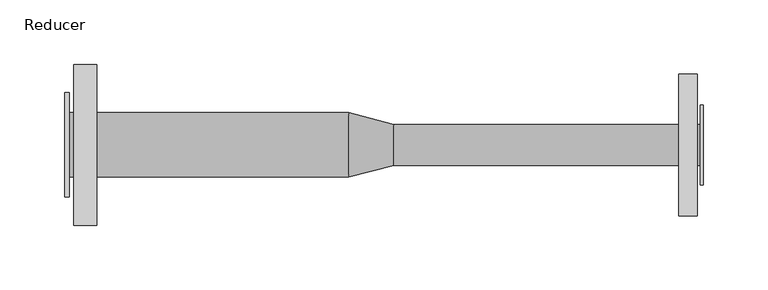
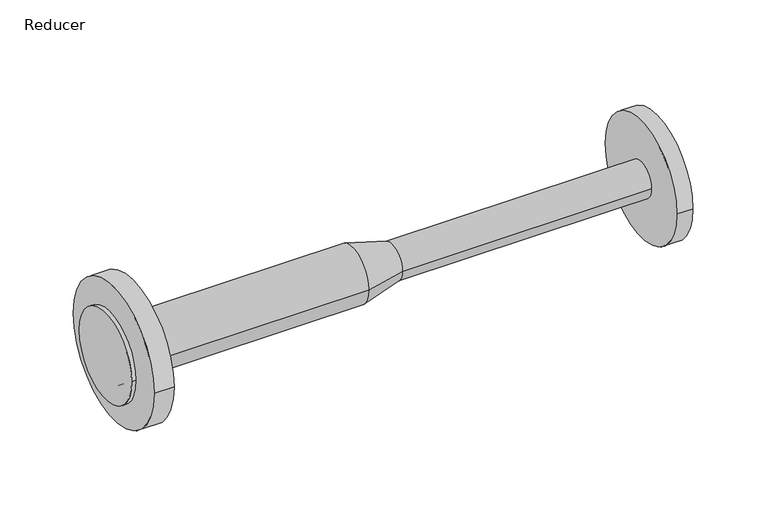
"""IFC4 building model written with IfcOpenShell, lengths in millimetres: pipe fitting geometry, Plumbing-Pipe-Fittings_Pexgol_Reducer : Reducer."""

import ifcopenshell
import ifcopenshell.guid

model = None  # the IFC model being written
_history = None  # IfcOwnerHistory: only IFC2X3 demands one
_inside = {}  # id of a spatial element -> (the spatial element, [elements in it])
_under = {}  # id of a project, library or spatial element -> (it, [spatial elements below it])
_declared = {}  # id of a project -> (the project, [libraries it declares])
_typed = {}  # id of a type object -> (the type object, [elements of that type])
_made_of = {}  # id of a material, layer set ... -> (it, [elements and type objects made of it])


def new_model(schema):
    """Start an empty IFC model of exactly this schema.

    Asked for "IFC4X3", IfcOpenShell would pick the latest addendum, in which some entities
    have other attributes; the version numbers below select the first issue.
    IFC2X3 requires an IfcOwnerHistory on every rooted entity: one is made here for all.
    """
    global model, _history
    if schema == "IFC4X3":
        model = ifcopenshell.file(schema_version=(4, 3, 0, 0))
    else:
        model = ifcopenshell.file(schema=schema)
    _inside.clear()
    _under.clear()
    _declared.clear()
    _typed.clear()
    _made_of.clear()
    _history = None
    if model.schema == "IFC2X3":
        org = make("IfcOrganization", Name="unknown")
        user = make(
            "IfcPersonAndOrganization",
            ThePerson=make("IfcPerson", FamilyName="unknown"),
            TheOrganization=org,
        )
        app = make(
            "IfcApplication",
            ApplicationDeveloper=org,
            Version="unknown",
            ApplicationFullName="unknown",
            ApplicationIdentifier="unknown",
        )
        _history = make(
            "IfcOwnerHistory",
            OwningUser=user,
            OwningApplication=app,
            ChangeAction="ADDED",
            CreationDate=0,
        )
    return model


def make(cls, **values):
    """One entity of the class cls with the attributes given. An attribute that is None is left unset."""
    return model.create_entity(
        cls, **{name: value for name, value in values.items() if value is not None}
    )


def rooted(cls, **values):
    """An entity with a GlobalId (a new one), such as an element, a storey or a relation."""
    return make(cls, GlobalId=ifcopenshell.guid.new(), OwnerHistory=_history, **values)


def si_unit(unit_type, name, prefix=None):
    """IfcSIUnit, for example si_unit("LENGTHUNIT", "METRE", prefix="MILLI")."""
    return make("IfcSIUnit", UnitType=unit_type, Prefix=prefix, Name=name)


def assignment(units):
    """IfcUnitAssignment: the units of a project."""
    return None if units is None else make("IfcUnitAssignment", Units=units)


def point(xyz):
    """IfcCartesianPoint."""
    return None if xyz is None else make("IfcCartesianPoint", Coordinates=xyz)


def direction(xyz):
    """IfcDirection."""
    return None if xyz is None else make("IfcDirection", DirectionRatios=xyz)


def frame(location, z_axis=None, x_axis=None):
    """IfcAxis2Placement3D, a coordinate frame: its origin and axes. An axis left out is left unset."""
    return make(
        "IfcAxis2Placement3D",
        Location=point(location),
        Axis=direction(z_axis),
        RefDirection=direction(x_axis),
    )


def frame_2d(location, x_axis=None):
    """IfcAxis2Placement2D, a coordinate frame in the plane: its origin and x axis."""
    return make(
        "IfcAxis2Placement2D", Location=point(location), RefDirection=direction(x_axis)
    )


def origin():
    """The frame at (0, 0, 0) with its axes left unset."""
    return frame((0.0, 0.0, 0.0))


def origin_2d():
    """The frame at (0, 0) in the plane with its x axis left unset."""
    return frame_2d((0.0, 0.0))


def place(relative_to, where):
    """IfcLocalPlacement: puts the frame where relative to a parent placement (None: the world)."""
    return make(
        "IfcLocalPlacement", PlacementRelTo=relative_to, RelativePlacement=where
    )


def context(
    kind, dimensions, precision=None, world=None, true_north=None, identifier=None
):
    """IfcGeometricRepresentationContext, for example the 3D "Model" context."""
    return make(
        "IfcGeometricRepresentationContext",
        ContextIdentifier=identifier,
        ContextType=kind,
        CoordinateSpaceDimension=dimensions,
        Precision=precision,
        WorldCoordinateSystem=world,
        TrueNorth=true_north,
    )


def project(units=None, contexts=None):
    """IfcProject with its units and contexts."""
    return rooted(
        "IfcProject",
        Name="project",
        RepresentationContexts=contexts,
        UnitsInContext=assignment(units),
    )


def spatial(cls, under=None, at=None, **own):
    """A site, building, storey or space (cls), placed at a placement, below another one or the project."""
    s = rooted(cls, ObjectPlacement=at, **own)
    if under is not None:
        _under.setdefault(under.id(), (under, []))[1].append(s)
    return s


def polyline(points):
    """IfcPolyline through the points."""
    return make("IfcPolyline", Points=[point(p) for p in points])


def circle_curve(where, radius):
    """IfcCircle in the frame where."""
    return make("IfcCircle", Position=where, Radius=radius)


def trimmed(basis, trim1, trim2, sense, master):
    """IfcTrimmedCurve: the piece of a basis curve between two trims."""
    return make(
        "IfcTrimmedCurve",
        BasisCurve=basis,
        Trim1=trim1,
        Trim2=trim2,
        SenseAgreement=sense,
        MasterRepresentation=master,
    )


def segment(curve, same_sense, transition):
    """IfcCompositeCurveSegment."""
    return make(
        "IfcCompositeCurveSegment",
        Transition=transition,
        SameSense=same_sense,
        ParentCurve=curve,
    )


def composite_curve(segments, self_intersect=None):
    """IfcCompositeCurve: segments joined end to end."""
    return make("IfcCompositeCurve", Segments=segments, SelfIntersect=self_intersect)


def outline(outer, holes=None, kind="AREA"):
    """IfcArbitraryClosedProfileDef: a profile drawn as a closed curve; with holes, ...WithVoids."""
    if holes is None:
        return make("IfcArbitraryClosedProfileDef", ProfileType=kind, OuterCurve=outer)
    return make(
        "IfcArbitraryProfileDefWithVoids",
        ProfileType=kind,
        OuterCurve=outer,
        InnerCurves=holes,
    )


def extrude(swept, where, along, depth):
    """IfcExtrudedAreaSolid: the profile swept, set in the frame where, extruded along a direction by depth."""
    return make(
        "IfcExtrudedAreaSolid",
        SweptArea=swept,
        Position=where,
        ExtrudedDirection=direction(along),
        Depth=depth,
    )


def shape(context_of_items, identifier, shape_type, items):
    """IfcShapeRepresentation: the items that make up one representation, for example the "Body"."""
    return make(
        "IfcShapeRepresentation",
        ContextOfItems=context_of_items,
        RepresentationIdentifier=identifier,
        RepresentationType=shape_type,
        Items=items,
    )


def source(mapping_origin, context_of_items, identifier, shape_type, items):
    """IfcRepresentationMap: a shape defined once, which mapped items show again and again."""
    return make(
        "IfcRepresentationMap",
        MappingOrigin=mapping_origin,
        MappedRepresentation=shape(context_of_items, identifier, shape_type, items),
    )


def transform(
    local_origin,
    x_axis=None,
    y_axis=None,
    z_axis=None,
    scale=None,
    scale2=None,
    scale3=None,
    uniform=True,
):
    """IfcCartesianTransformationOperator3D, or its non-uniform kind. x_axis, y_axis, z_axis: its Axis1, 2, 3."""
    if uniform:
        return make(
            "IfcCartesianTransformationOperator3D",
            Axis1=direction(x_axis),
            Axis2=direction(y_axis),
            LocalOrigin=point(local_origin),
            Scale=scale,
            Axis3=direction(z_axis),
        )
    return make(
        "IfcCartesianTransformationOperator3DnonUniform",
        Axis1=direction(x_axis),
        Axis2=direction(y_axis),
        LocalOrigin=point(local_origin),
        Scale=scale,
        Axis3=direction(z_axis),
        Scale2=scale2,
        Scale3=scale3,
    )


def mapped(mapping_source, mapping_target):
    """IfcMappedItem: shows the shape of a source again, moved by a transform."""
    return make(
        "IfcMappedItem", MappingSource=mapping_source, MappingTarget=mapping_target
    )


def made_of(thing, what):
    """Note that an element or type object is made of a material, layer set ...; save() writes the relation."""
    if what is not None:
        _made_of.setdefault(what.id(), (what, []))[1].append(thing)
    return thing


def element(
    cls,
    number,
    at=None,
    inside=None,
    cuts=None,
    type_object=None,
    material=None,
    context=None,
    identifier="Body",
    shape_type=None,
    held_by="IfcProductDefinitionShape",
    body=None,
    shapes=None,
    **own,
):
    """One element of the class cls, such as IfcWall. Its Tag is "e" and its number.

    at: its placement. inside: the storey or other place that contains it. cuts: it is an
    opening in that element (IfcRelVoidsElement). A single representation is given by context,
    identifier, shape_type and body (its items); several are given by shapes. held_by: the class
    of the entity that holds the representations. save() writes the other relations.
    """
    e = rooted(cls, Tag="e%d" % number, ObjectPlacement=at, **own)
    if body is not None:
        shapes = [shape(context, identifier, shape_type, body)]
    if shapes is not None:
        e.Representation = make(held_by, Representations=shapes)
    if inside is not None:
        _inside.setdefault(inside.id(), (inside, []))[1].append(e)
    if cuts is not None:
        rooted(
            "IfcRelVoidsElement", RelatingBuildingElement=cuts, RelatedOpeningElement=e
        )
    if type_object is not None:
        _typed.setdefault(type_object.id(), (type_object, []))[1].append(e)
    return made_of(e, material)


def aggregate(whole, parts):
    """IfcRelAggregates: a whole, such as a stair, and the parts it consists of."""
    return rooted("IfcRelAggregates", RelatingObject=whole, RelatedObjects=parts)


def save(model, path):
    """Write the relations noted so far, then the file.

    IfcRelAggregates (storeys below a building ...), IfcRelContainedInSpatialStructure (elements
    in a storey), IfcRelDefinesByType, IfcRelAssociatesMaterial and IfcRelDeclares: one each for
    every whole, place, type object, material and project.
    """
    for whole, parts in _under.values():
        aggregate(whole, parts)
    for where, things in _inside.values():
        rooted(
            "IfcRelContainedInSpatialStructure",
            RelatedElements=things,
            RelatingStructure=where,
        )
    for kind, things in _typed.values():
        rooted("IfcRelDefinesByType", RelatedObjects=things, RelatingType=kind)
    for what, things in _made_of.values():
        rooted("IfcRelAssociatesMaterial", RelatedObjects=things, RelatingMaterial=what)
    for by, libraries in _declared.values():
        rooted("IfcRelDeclares", RelatingContext=by, RelatedDefinitions=libraries)
    model.write(path)


def plane_surface(at):
    """IfcPlane: the flat surface through the origin of the frame at, square to its z axis."""
    return make("IfcPlane", Position=at)


def cylinder_surface(at, radius):
    """IfcCylindricalSurface: all points at the distance radius from the z axis of the frame at."""
    return make("IfcCylindricalSurface", Position=at, Radius=radius)


def revolved_surface(curve, axis_point, axis_direction):
    """IfcSurfaceOfRevolution: the curve turned about the line through axis_point along axis_direction."""
    return make(
        "IfcSurfaceOfRevolution",
        SweptCurve=make("IfcArbitraryOpenProfileDef", ProfileType="CURVE", Curve=curve),
        AxisPosition=make("IfcAxis1Placement", Location=point(axis_point), Axis=direction(axis_direction)),
    )


def advanced_brep(points, edges, surfaces, faces):
    """IfcAdvancedBrep: a solid bounded by faces that lie on surfaces and meet in shared edges.

    An edge is (start, end): straight between two places in points (the first is 0);
    or (start, end, curve); or (start, end, curve, False) where it runs against its curve.
    A face is (place in surfaces, loops), or (place, loops, False) where it looks against
    its surface's normal. A loop lists edges by number (the first is 1), with a minus sign
    where the edge is run from its end to its start. The first loop is the outer one.
    """
    corners = [point(p) for p in points]
    vertices = [make("IfcVertexPoint", VertexGeometry=c) for c in corners]
    made = []
    for start, end, *more in edges:
        made.append(
            make(
                "IfcEdgeCurve",
                EdgeStart=vertices[start],
                EdgeEnd=vertices[end],
                EdgeGeometry=more[0] if more else make("IfcPolyline", Points=[corners[start], corners[end]]),
                SameSense=more[1] if len(more) > 1 else True,
            )
        )
    hull = []
    for where, loops, *sense in faces:
        bounds = []
        for j, loop in enumerate(loops):
            ring = [make("IfcOrientedEdge", EdgeElement=made[abs(k) - 1], Orientation=k > 0) for k in loop]
            bounds.append(
                make(
                    "IfcFaceOuterBound" if j == 0 else "IfcFaceBound",
                    Bound=make("IfcEdgeLoop", EdgeList=ring),
                    Orientation=True,
                )
            )
        hull.append(make("IfcAdvancedFace", Bounds=bounds, FaceSurface=surfaces[where], SameSense=sense[0] if sense else True))
    return make("IfcAdvancedBrep", Outer=make("IfcClosedShell", CfsFaces=hull))


def reducer_c4914ecf(model_context):
    return source(origin(), model_context, "Body", "SolidModel", [
        advanced_brep(
        [(255.1727273, -16.0, 0.0), (255.1727273, 16.0, 0.0), (255.1727273, 0.0, 0.0), (17.5, -16.0, 0.0), (17.5, 16.0, 0.0), (-17.5, -25.0, 0.0), (-17.5, 25.0, 0.0), (-233.8636364, -25.0, 0.0), (-233.8636364, 25.0, 0.0), (-233.8636364, 0.0, 0.0)],
        [
            (0, 1, circle_curve(frame((255.1727273, 0.0, 0.0), z_axis=(1.0, 0.0, 0.0), x_axis=(0.0, 1.0, 0.0)), 16.0)),
            (1, 2),
            (2, 0),
            (1, 0, circle_curve(frame((255.1727273, 0.0, 0.0), z_axis=(1.0, 0.0, 0.0), x_axis=(0.0, 1.0, 0.0)), 16.0)),
            (3, 4, circle_curve(frame((17.5, 0.0, 0.0), z_axis=(1.0, 0.0, 0.0), x_axis=(0.0, 1.0, 0.0)), 16.0)),
            (4, 1),
            (0, 3),
            (4, 3, circle_curve(frame((17.5, 0.0, 0.0), z_axis=(1.0, 0.0, 0.0), x_axis=(0.0, 1.0, 0.0)), 16.0)),
            (5, 6, circle_curve(frame((-17.5, 0.0, 0.0), z_axis=(1.0, 0.0, 0.0), x_axis=(0.0, 1.0, 0.0)), 25.0)),
            (6, 4),
            (3, 5),
            (6, 5, circle_curve(frame((-17.5, 0.0, 0.0), z_axis=(1.0, 0.0, 0.0), x_axis=(0.0, 1.0, 0.0)), 25.0)),
            (7, 8, circle_curve(frame((-233.8636364, 0.0, 0.0), z_axis=(1.0, 0.0, 0.0), x_axis=(0.0, 1.0, 0.0)), 25.0)),
            (8, 6),
            (5, 7),
            (8, 7, circle_curve(frame((-233.8636364, 0.0, 0.0), z_axis=(1.0, 0.0, 0.0), x_axis=(0.0, 1.0, 0.0)), 25.0)),
            (9, 8),
            (7, 9),
        ],
        [
            plane_surface(frame((255.1727273, 0.0, 0.0), z_axis=(1.0, 0.0, 0.0), x_axis=(0.0, 1.0, 0.0))),
            cylinder_surface(frame((2134.462963, 0.0, 0.0), z_axis=(-1.0, 0.0, 0.0), x_axis=(0.0, 1.0, 0.0)), 16.0),
            revolved_surface(polyline([(17.5, 16.0, 0.0), (-17.5, 25.0, 0.0)]), (2134.462963, 0.0, 0.0), (-1.0, 0.0, 0.0)),
            cylinder_surface(frame((2134.462963, 0.0, 0.0), z_axis=(-1.0, 0.0, 0.0), x_axis=(0.0, 1.0, 0.0)), 25.0),
            plane_surface(frame((-233.8636364, 0.0, 0.0), z_axis=(-1.0, 0.0, 0.0), x_axis=(0.0, 1.0, 0.0))),
        ],
        [
            (0, [[1, 2, 3]]),
            (0, [[4, -3, -2]]),
            (1, [[5, 6, -1, 7]]),
            (1, [[8, -7, -4, -6]]),
            (2, [[9, 10, -5, 11]]),
            (2, [[12, -11, -8, -10]]),
            (3, [[13, 14, -9, 15]]),
            (3, [[16, -15, -12, -14]]),
            (4, [[17, -13, 18]]),
            (4, [[-18, -16, -17]]),
        ],
    ),
        extrude(outline(composite_curve([segment(trimmed(circle_curve(origin_2d(), 62.5), [point((-62.5, 0.0))], [point((62.5, 0.0))], False, "CARTESIAN"), True, "CONTINUOUS"), segment(trimmed(circle_curve(origin_2d(), 62.5), [point((62.5, 0.0))], [point((-62.5, 0.0))], False, "CARTESIAN"), True, "CONTINUOUS")], self_intersect=False)), frame((-230.2272727, 0.0, 0.0), z_axis=(1.0, 0.0, 0.0), x_axis=(0.0, 1.0, 0.0)), (0.0, 0.0, 1.0), 17.5),
        extrude(outline(composite_curve([segment(trimmed(circle_curve(origin_2d(), 55.0), [point((-55.0, 0.0))], [point((55.0, 0.0))], False, "CARTESIAN"), True, "CONTINUOUS"), segment(trimmed(circle_curve(origin_2d(), 55.0), [point((55.0, 0.0))], [point((-55.0, 0.0))], False, "CARTESIAN"), True, "CONTINUOUS")], self_intersect=False)), frame((238.5454545, 0.0, 0.0), z_axis=(1.0, 0.0, 0.0), x_axis=(0.0, 1.0, 0.0)), (0.0, 0.0, 1.0), 14.3),
        extrude(outline(composite_curve([segment(trimmed(circle_curve(origin_2d(), 31.0), [point((-31.0, 0.0))], [point((31.0, 0.0))], False, "CARTESIAN"), True, "CONTINUOUS"), segment(trimmed(circle_curve(origin_2d(), 31.0), [point((31.0, 0.0))], [point((-31.0, 0.0))], False, "CARTESIAN"), True, "CONTINUOUS")], self_intersect=False)), frame((255.1727273, 0.0, 0.0), z_axis=(1.0, 0.0, 0.0), x_axis=(0.0, 1.0, 0.0)), (0.0, 0.0, 1.0), 2.3272727),
        extrude(outline(composite_curve([segment(trimmed(circle_curve(origin_2d(), 40.5), [point((-40.5, 0.0))], [point((40.5, 0.0))], False, "CARTESIAN"), True, "CONTINUOUS"), segment(trimmed(circle_curve(origin_2d(), 40.5), [point((40.5, 0.0))], [point((-40.5, 0.0))], False, "CARTESIAN"), True, "CONTINUOUS")], self_intersect=False)), frame((-237.5, 0.0, 0.0), z_axis=(1.0, 0.0, 0.0), x_axis=(0.0, 1.0, 0.0)), (0.0, 0.0, 1.0), 3.6363636),
    ])


if __name__ == "__main__":
    model = new_model("IFC4")
    model_context = context("Model", 3, world=origin())
    ifc_project = project(units=[si_unit("LENGTHUNIT", "METRE", prefix="MILLI")], contexts=[model_context])
    site = spatial("IfcSite", under=ifc_project)
    building = spatial("IfcBuilding", under=site)
    placement = place(None, origin())
    reducer_shape = reducer_c4914ecf(model_context)
    element("IfcPipeFitting", 1, ObjectType="Plumbing-Pipe-Fittings_Pexgol_Reducer : Reducer", at=placement, inside=building, context=model_context, shape_type="MappedRepresentation", body=[
        mapped(reducer_shape, transform((0.0, 0.0, 0.0), x_axis=(1.0, 0.0, 0.0), y_axis=(0.0, 1.0, 0.0), z_axis=(0.0, 0.0, 1.0))),
    ])
    save(model, "model.ifc")
